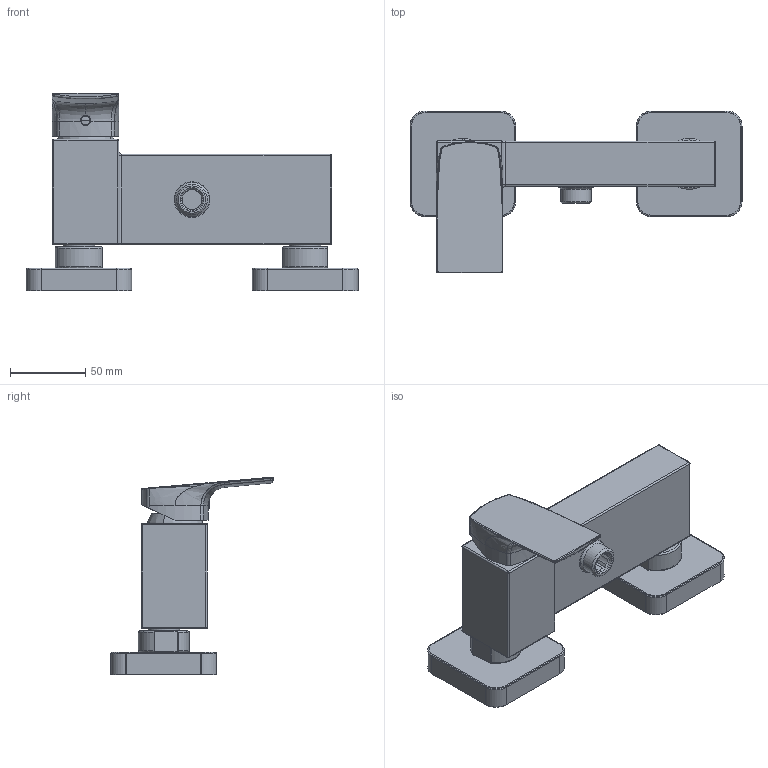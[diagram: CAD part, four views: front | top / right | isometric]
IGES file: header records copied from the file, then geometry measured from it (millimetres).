
Start section:  PTC IGES file: 3d_sw0002.igs
Global section: file name: 3d_sw0002.igs; native system: Creo Parametric by PTC Inc.; preprocessor: 2022014; author: volponeff; organization: Unknown; date: 20241008.084813; units: millimetre
Bounding box: 220 x 107.5 x 131.04 mm (x, y, z)
Surface area: 155158 mm2 (no closed solid volume)
Topology: 0 solids, 0 shells, 1255 faces, 5930 edges, 5918 vertices
Faces by surface type: revolution 828, bspline 427
